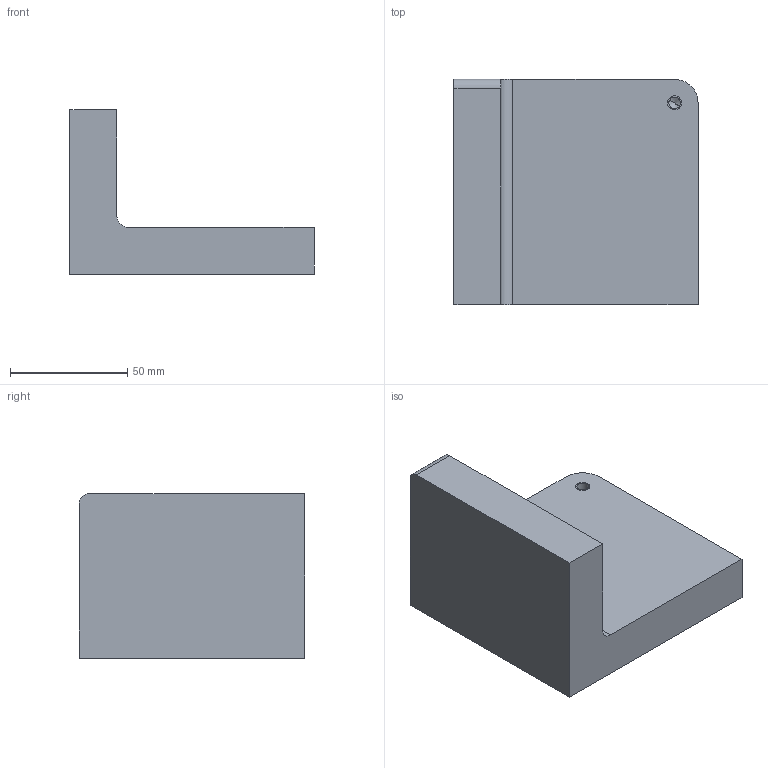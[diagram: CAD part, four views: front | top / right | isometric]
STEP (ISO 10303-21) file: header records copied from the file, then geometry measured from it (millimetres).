
FILE_DESCRIPTION(('CATIA V5 STEP Exchange'),'2;1');
FILE_NAME('C:\_Andres\UNIVERSIDAD\IQS\ASIGNATURAS\DAO\EXF\EXF-16172c\2inicio\Bonilla_Arrufat_Ej01_v4.stp','2017-03-05T15:11:04+00:00',('none'),('none'),'CATIA Version 5-6 Release 2014 SP1 HF18','CATIA V5 STEP AP203','none');
FILE_SCHEMA(('CONFIG_CONTROL_DESIGN'));
Length unit declared in the file: millimetre
Products named in the file (1): Bonilla_Arrufat_Ej01_v4
Bounding box: 104 x 96 x 70 mm (x, y, z)
Volume: 295384.4 mm3; surface area: 39679 mm2
Topology: 1 solids, 2 shells, 17 faces, 43 edges, 27 vertices
Faces by surface type: plane 8, cylinder 7, cone 2
Entity records: 513 total; most frequent: CARTESIAN_POINT 83, ORIENTED_EDGE 78, DIRECTION 69, EDGE_CURVE 41, AXIS2_PLACEMENT_3D 29, VECTOR 27, LINE 27, VERTEX_POINT 27
